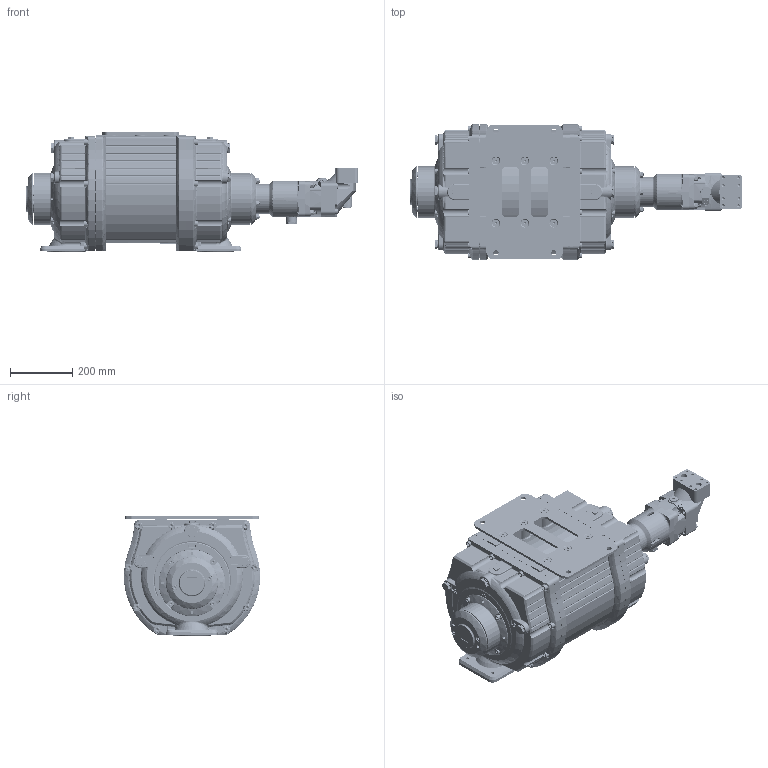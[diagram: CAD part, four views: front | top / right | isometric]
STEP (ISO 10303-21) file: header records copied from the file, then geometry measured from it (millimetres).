
FILE_DESCRIPTION(/* description */ (''),/* implementation_level */ '2;1');
FILE_NAME(/* name */ 'E:\WorkSpace\Designs\1700\1700041B.stp',/* time_stamp */ '2023-11-24T13:51:35+01:00',/* author */ ('JJ'),/* organization */ (''),/* preprocessor_version */ 'ST-DEVELOPER v18.1',/* originating_system */ 'Autodesk Inventor 2022',/* authorisation */ '');
FILE_SCHEMA (('AUTOMOTIVE_DESIGN { 1 0 10303 214 3 1 1 }'));
Products named in the file (18): 1700041; 1657023; 944000086; 944000086_part1; 944000086_part2; 944000086_part3; 932400132; 932400133; 932400134; 1634826; 1634811; 922000266; 922200272; 1657041; 910100194; 910100170; 910200008; 1700040 Ready for adaptor
Assembly tree (38 placements, depth 3):
  1700041
    1657023
    944000086
      944000086_part1
      944000086_part2
      944000086_part3
    932400132
    932400133
    932400134
    1634826
      1634811
      922000266
    922200272
    1657041
    910100194  x8
    910100170  x8
    910200008  x8
    1700040 Ready for adaptor
Bounding box: 1065.8 x 437.65 x 384.46 mm (x, y, z)
Volume: 72761781.4 mm3; surface area: 2240991.9 mm2
Topology: 36 solids, 36 shells, 4503 faces, 11520 edges, 7326 vertices
Faces by surface type: plane 1661, cylinder 1249, bspline 751, torus 494, cone 275, sphere 73
Full cylindrical faces by diameter (mm): 3 x2, 3.3 x4, 4 x1, 5.917 x1, 6 x8, 8 x2, 8.376 x28, 9 x4, 10 x258, 10.106 x9, 10.5 x8, 10.7 x12, 11 x4, 12 x16, 16 x16, 17 x10, 18 x27, 19 x2, 20 x8, 20.57 x2, 23.12 x6, 23.83 x1, 24 x22, 24.117 x1, 25 x20, 26 x4, 26.44 x1, 27 x1, 27.05 x2, 28.58 x4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
Entity records: 162117 total; most frequent: CARTESIAN_POINT 64622, ORIENTED_EDGE 20318, DIRECTION 18259, EDGE_CURVE 10159, AXIS2_PLACEMENT_3D 6863, VERTEX_POINT 6486, LINE 4533, VECTOR 4533
